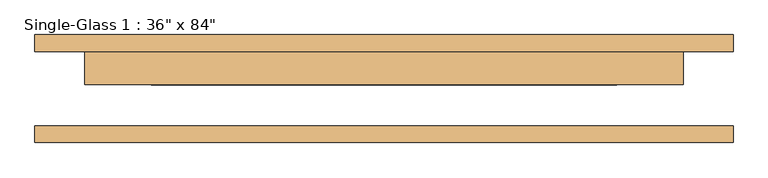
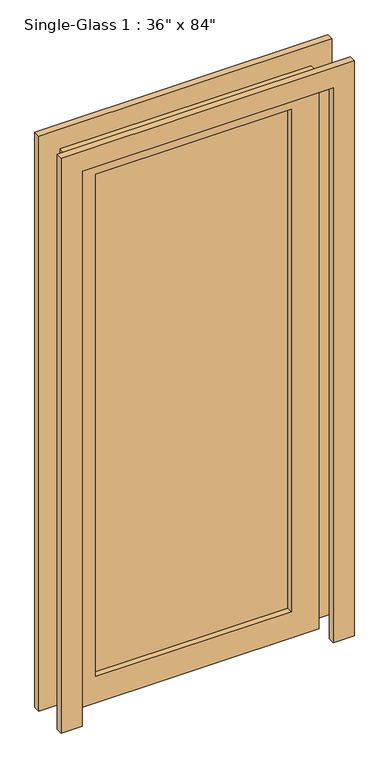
"""IFC4 building model written with IfcOpenShell, lengths in millimetres: door geometry."""

from ifc_helpers import new_model, si_unit, frame, origin, place, context, project, spatial, polyline, outline, extrude, source, transform, mapped, element, save


def door_8ba650bb(model_context):
    return source(origin(), model_context, "Body", "SweptSolid", [
        extrude(outline(polyline([(2133.6, 457.2), (0.0, 457.2), (0.0, 533.4), (2209.8, 533.4), (2209.8, -533.4), (0.0, -533.4), (0.0, -457.2), (2133.6, -457.2), (2133.6, 457.2)])), frame((0.0, -82.55, 0.0), z_axis=(0.0, 1.0, 0.0), x_axis=(0.0, 0.0, 1.0)), (0.0, 0.0, 1.0), 25.4),
        extrude(outline(polyline([(2133.6, 457.2), (0.0, 457.2), (0.0, 533.4), (2209.8, 533.4), (2209.8, -533.4), (0.0, -533.4), (0.0, -457.2), (2133.6, -457.2), (2133.6, 457.2)])), frame((0.0, 57.15, 0.0), z_axis=(0.0, 1.0, 0.0), x_axis=(0.0, 0.0, 1.0)), (0.0, 0.0, 1.0), 25.4),
        extrude(outline(polyline([(355.6, 28.575), (-355.6, 28.575), (-355.6, 34.925), (355.6, 34.925), (355.6, 28.575)])), frame((0.0, 0.0, 101.6), z_axis=(0.0, 0.0, 1.0), x_axis=(1.0, 0.0, 0.0)), (0.0, 0.0, 1.0), 1930.4),
        extrude(outline(polyline([(2133.6, 457.2), (2133.6, -457.2), (0.0, -457.2), (0.0, 457.2), (2133.6, 457.2)]), holes=[polyline([(2032.0, -355.6), (2032.0, 355.6), (101.6, 355.6), (101.6, -355.6), (2032.0, -355.6)])]), frame((0.0, 6.35, 0.0), z_axis=(0.0, 1.0, 0.0), x_axis=(0.0, 0.0, 1.0)), (0.0, 0.0, 1.0), 50.8),
    ])


if __name__ == "__main__":
    model = new_model("IFC4")
    model_context = context("Model", 3, world=origin())
    ifc_project = project(units=[si_unit("LENGTHUNIT", "METRE", prefix="MILLI")], contexts=[model_context])
    site = spatial("IfcSite", under=ifc_project)
    building = spatial("IfcBuilding", under=site)
    placement = place(None, origin())
    door_shape = door_8ba650bb(model_context)
    element("IfcDoor", 1, ObjectType="Single-Glass 1 : 36\" x 84\"", at=placement, inside=building, context=model_context, shape_type="MappedRepresentation", body=[
        mapped(door_shape, transform((0.0, 0.0, 0.0), x_axis=(1.0, 0.0, 0.0), y_axis=(0.0, 1.0, 0.0), z_axis=(0.0, 0.0, 1.0))),
    ])
    save(model, "model.ifc")
